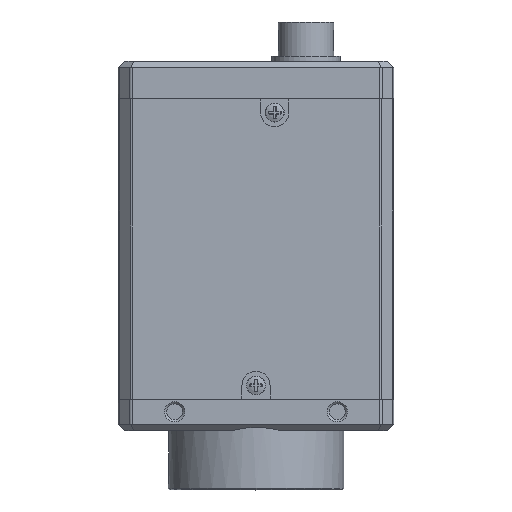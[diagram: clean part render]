
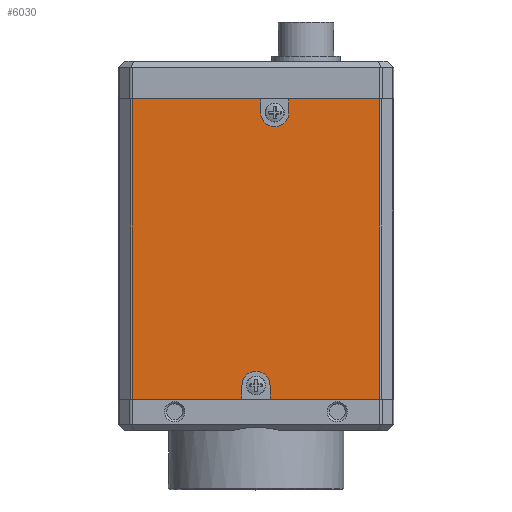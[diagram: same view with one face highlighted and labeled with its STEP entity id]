
A CAD part, top view. The second image highlights one B-rep face of the part: STEP entity #6030.
In plain terms, the highlighted planar face has unit normal (0, 0, 1).
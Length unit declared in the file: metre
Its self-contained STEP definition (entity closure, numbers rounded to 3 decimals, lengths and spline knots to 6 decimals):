
#6030=ADVANCED_FACE('0:17170',(#17424),#17425,.T.);
#10358=EDGE_CURVE('0:24013',#23971,#23972,#23973,.T.);
#10360=EDGE_CURVE('0:24346',#23975,#23971,#23976,.T.);
#10362=EDGE_CURVE('0:24652',#23978,#23975,#23979,.T.);
#10364=EDGE_CURVE('0:23773',#23981,#23978,#23982,.T.);
#10366=EDGE_CURVE('0:24655',#23984,#23981,#23985,.T.);
#10368=EDGE_CURVE('0:24334',#23984,#23987,#23988,.T.);
#10370=EDGE_CURVE('0:23989',#23990,#23987,#23991,.T.);
#10372=EDGE_CURVE('0:24445',#23993,#23990,#23994,.T.);
#10374=EDGE_CURVE('0:24658',#23996,#23993,#23997,.T.);
#10376=EDGE_CURVE('0:23944',#23999,#23996,#24000,.T.);
#10378=EDGE_CURVE('0:24661',#24002,#23999,#24003,.T.);
#10380=EDGE_CURVE('0:24433',#24002,#23972,#24005,.T.);
#17424=FACE_OUTER_BOUND('',#34222,.T.);
#17425=PLANE('',#34223);
#23971=VERTEX_POINT('',#48914);
#23972=VERTEX_POINT('',#48915);
#23973=LINE('',#48916,#48917);
#23975=VERTEX_POINT('',#48920);
#23976=LINE('',#48921,#48922);
#23978=VERTEX_POINT('',#48925);
#23979=LINE('',#48926,#48927);
#23981=VERTEX_POINT('',#48930);
#23982=CIRCLE('',#48931,0.00225);
#23984=VERTEX_POINT('',#48934);
#23985=LINE('',#48935,#48936);
#23987=VERTEX_POINT('',#48939);
#23988=LINE('',#48940,#48941);
#23990=VERTEX_POINT('',#48944);
#23991=LINE('',#48945,#48946);
#23993=VERTEX_POINT('',#48949);
#23994=LINE('',#48950,#48951);
#23996=VERTEX_POINT('',#48954);
#23997=LINE('',#48955,#48956);
#23999=VERTEX_POINT('',#48959);
#24000=CIRCLE('',#48960,0.00225);
#24002=VERTEX_POINT('',#48963);
#24003=LINE('',#48964,#48965);
#24005=LINE('',#48968,#48969);
#34222=EDGE_LOOP('',(#65508,#65509,#65510,#65511,#65512,#65513,#65514,#65515,#65516,#65517,#65518,#65519));
#34223=AXIS2_PLACEMENT_3D('',#65520,#65521,#65522);
#48914=CARTESIAN_POINT('',(-0.019751,-0.022975,0.028695));
#48915=CARTESIAN_POINT('',(-0.019751,0.025025,0.028695));
#48916=CARTESIAN_POINT('',(-0.019751,0.001025,0.028695));
#48917=VECTOR('',#78486,1.0);
#48920=CARTESIAN_POINT('',(-0.00225,-0.022975,0.028695));
#48921=CARTESIAN_POINT('',(0.,-0.022975,0.028695));
#48922=VECTOR('',#78487,1.0);
#48925=CARTESIAN_POINT('',(-0.00225,-0.020775,0.028695));
#48926=CARTESIAN_POINT('',(-0.00225,-0.010425,0.028695));
#48927=VECTOR('',#78488,1.0);
#48930=CARTESIAN_POINT('',(0.00225,-0.020775,0.028695));
#48931=AXIS2_PLACEMENT_3D('',#78489,#78490,#78491);
#48934=CARTESIAN_POINT('',(0.00225,-0.022975,0.028695));
#48935=CARTESIAN_POINT('',(0.00225,-0.010425,0.028695));
#48936=VECTOR('',#78492,1.0);
#48939=CARTESIAN_POINT('',(0.019751,-0.022975,0.028695));
#48940=CARTESIAN_POINT('',(0.019793,-0.022975,0.028695));
#48941=VECTOR('',#78493,1.0);
#48944=CARTESIAN_POINT('',(0.019751,0.025025,0.028695));
#48945=CARTESIAN_POINT('',(0.019751,0.001025,0.028695));
#48946=VECTOR('',#78494,1.0);
#48949=CARTESIAN_POINT('',(0.00525,0.025025,0.028695));
#48950=CARTESIAN_POINT('',(0.009948,0.025025,0.028695));
#48951=VECTOR('',#78495,1.0);
#48954=CARTESIAN_POINT('',(0.00525,0.022825,0.028695));
#48955=CARTESIAN_POINT('',(0.00525,0.012475,0.028695));
#48956=VECTOR('',#78496,1.0);
#48959=CARTESIAN_POINT('',(0.00075,0.022825,0.028695));
#48960=AXIS2_PLACEMENT_3D('',#78497,#78498,#78499);
#48963=CARTESIAN_POINT('',(0.00075,0.025025,0.028695));
#48964=CARTESIAN_POINT('',(0.00075,0.012475,0.028695));
#48965=VECTOR('',#78500,1.0);
#48968=CARTESIAN_POINT('',(0.00075,0.025025,0.028695));
#48969=VECTOR('',#78501,1.0);
#65508=ORIENTED_EDGE('',*,*,#10358,.F.);
#65509=ORIENTED_EDGE('',*,*,#10360,.F.);
#65510=ORIENTED_EDGE('',*,*,#10362,.F.);
#65511=ORIENTED_EDGE('',*,*,#10364,.F.);
#65512=ORIENTED_EDGE('',*,*,#10366,.F.);
#65513=ORIENTED_EDGE('',*,*,#10368,.T.);
#65514=ORIENTED_EDGE('',*,*,#10370,.F.);
#65515=ORIENTED_EDGE('',*,*,#10372,.F.);
#65516=ORIENTED_EDGE('',*,*,#10374,.F.);
#65517=ORIENTED_EDGE('',*,*,#10376,.F.);
#65518=ORIENTED_EDGE('',*,*,#10378,.F.);
#65519=ORIENTED_EDGE('',*,*,#10380,.T.);
#65520=CARTESIAN_POINT('',(0.,0.001025,0.028695));
#65521=DIRECTION('',(0.0,0.,1.0));
#65522=DIRECTION('',(0.0,-1.0,0.));
#78486=DIRECTION('',(0.,1.0,0.));
#78487=DIRECTION('',(-1.0,0.,0.));
#78488=DIRECTION('',(0.,-1.0,0.));
#78489=CARTESIAN_POINT('',(0.,-0.020775,0.028695));
#78490=DIRECTION('',(0.,0.,1.0));
#78491=DIRECTION('',(0.,1.0,0.));
#78492=DIRECTION('',(0.,1.0,0.));
#78493=DIRECTION('',(1.0,0.,0.));
#78494=DIRECTION('',(0.,-1.0,0.));
#78495=DIRECTION('',(1.0,0.,0.));
#78496=DIRECTION('',(0.,1.0,0.));
#78497=CARTESIAN_POINT('',(0.003,0.022825,0.028695));
#78498=DIRECTION('',(0.,0.,1.0));
#78499=DIRECTION('',(0.,1.0,0.));
#78500=DIRECTION('',(0.,-1.0,0.));
#78501=DIRECTION('',(-1.0,0.,0.));
